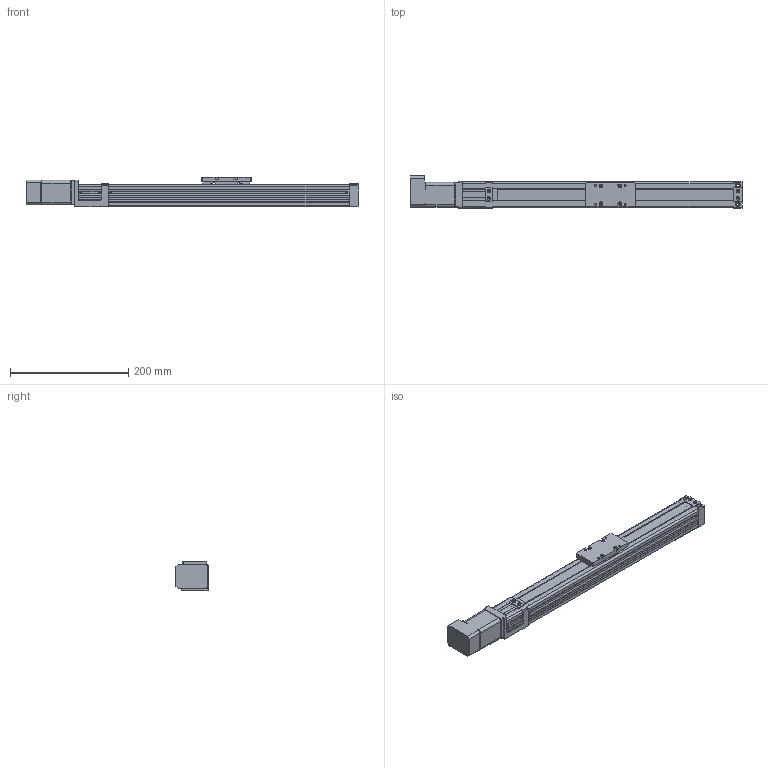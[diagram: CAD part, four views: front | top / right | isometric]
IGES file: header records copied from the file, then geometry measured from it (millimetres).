
Global section: file name: No Iges File Name specified; native system: AutoDesk Inventor R10; preprocessor: AutoDesk Inventor Iges Exporter R10; author: No Author specified; organization: No Organization specified; date: 20110617.145628; units: millimetre
Bounding box: 562.5 x 54.5 x 50 mm (x, y, z)
Surface area: 214682.8 mm2 (no closed solid volume)
Topology: 0 solids, 0 shells, 886 faces, 5822 edges, 5794 vertices
Faces by surface type: bspline 886
